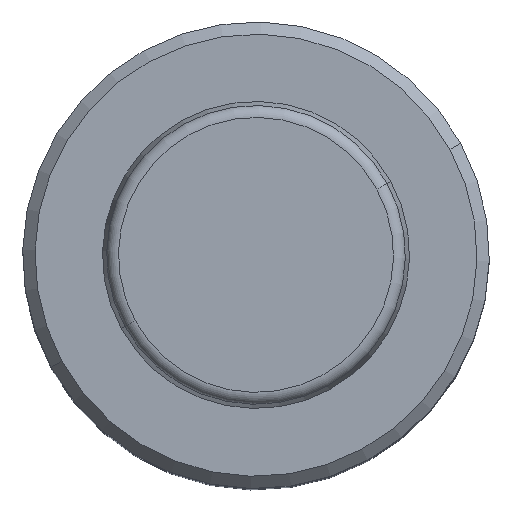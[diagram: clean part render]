
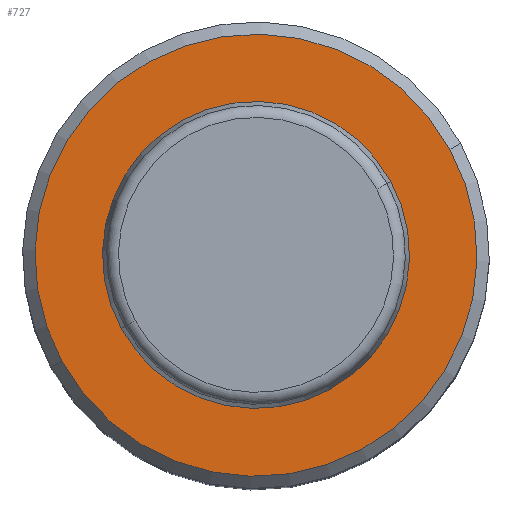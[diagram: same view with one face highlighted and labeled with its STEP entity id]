
A CAD part, top view. The second image highlights one B-rep face of the part: STEP entity #727.
In plain terms, the highlighted planar face has unit normal (0, 0, 1).
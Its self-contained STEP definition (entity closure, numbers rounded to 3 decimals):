
#499=CARTESIAN_POINT('Axis2P3D Location',(0.,0.,69.)) ;
#503=CARTESIAN_POINT('Vertex',(15.796,8.63,69.)) ;
#505=CARTESIAN_POINT('Vertex',(-15.796,-8.63,69.)) ;
#534=CARTESIAN_POINT('Axis2P3D Location',(0.,0.,69.)) ;
#718=CARTESIAN_POINT('Axis2P3D Location',(18.,0.,69.)) ;
#500=DIRECTION('Axis2P3D Direction',(0.,0.,-1.)) ;
#535=DIRECTION('Axis2P3D Direction',(0.,0.,-1.)) ;
#719=DIRECTION('Axis2P3D Direction',(0.,0.,1.)) ;
#720=DIRECTION('Axis2P3D XDirection',(1.,0.,0.)) ;
#501=AXIS2_PLACEMENT_3D('Circle Axis2P3D',#499,#500,$) ;
#536=AXIS2_PLACEMENT_3D('Circle Axis2P3D',#534,#535,$) ;
#721=AXIS2_PLACEMENT_3D('Plane Axis2P3D',#718,#719,#720) ;
#724=ORIENTED_EDGE('',*,*,#507,.T.) ;
#725=ORIENTED_EDGE('',*,*,#538,.T.) ;
#727=ADVANCED_FACE('',(#726),#722,.T.) ;
#502=CIRCLE('generated circle',#501,18.) ;
#537=CIRCLE('generated circle',#536,18.) ;
#507=EDGE_CURVE('',#504,#506,#502,.F.) ;
#538=EDGE_CURVE('',#506,#504,#537,.F.) ;
#723=EDGE_LOOP('',(#724,#725)) ;
#726=FACE_OUTER_BOUND('',#723,.T.) ;
#722=PLANE('Plane',#721) ;
#504=VERTEX_POINT('',#503) ;
#506=VERTEX_POINT('',#505) ;
